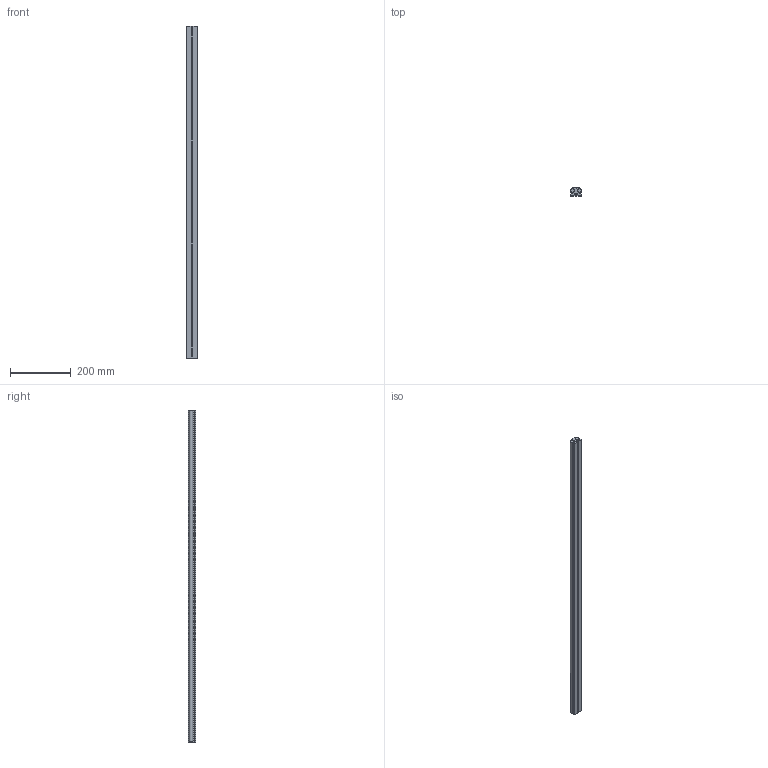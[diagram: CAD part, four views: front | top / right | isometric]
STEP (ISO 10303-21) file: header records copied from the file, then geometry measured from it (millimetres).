
FILE_DESCRIPTION (( 'STEP AP203' ), '1' );
FILE_NAME ('Linearführung_-_LFS-12-10 - L=1096.step', '2011-07-19T09:13:50', ( 'HI' ), ( '' ), 'SwSTEP 2.0', 'SolidWorks 2010', '' );
FILE_SCHEMA (( 'CONFIG_CONTROL_DESIGN' ));
Length unit declared in the file: millimetre
Products named in the file (1): Linearführung_-_LFS-12-10 - L=1096
Bounding box: 36 x 24.5 x 1096 mm (x, y, z)
Volume: 705811.3 mm3; surface area: 271501.7 mm2
Topology: 1 solids, 1 shells, 524 faces, 1402 edges, 918 vertices
Faces by surface type: cylinder 245, plane 191, cone 88
Entity records: 21641 total; most frequent: CARTESIAN_POINT 8317, ORIENTED_EDGE 2804, DIRECTION 2690, EDGE_CURVE 1402, AXIS2_PLACEMENT_3D 1027, VERTEX_POINT 918, EDGE_LOOP 702, LINE 636
